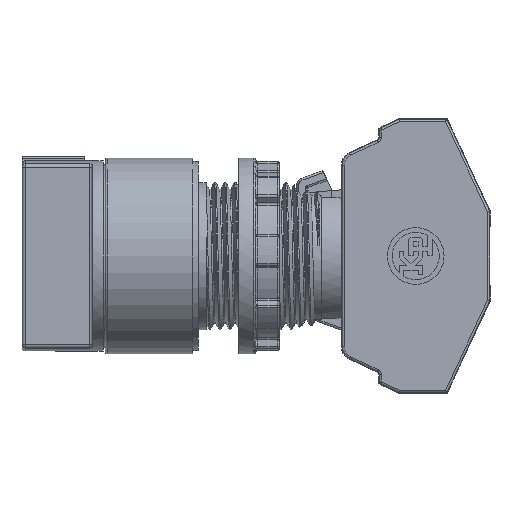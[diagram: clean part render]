
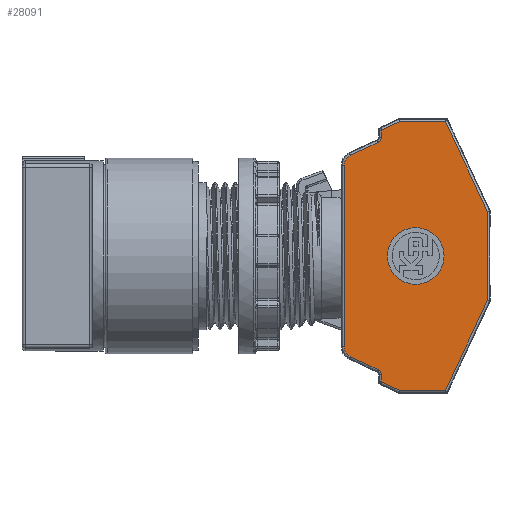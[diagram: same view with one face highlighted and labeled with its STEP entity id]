
A CAD part, front view. The second image highlights one B-rep face of the part: STEP entity #28091.
In plain terms, the highlighted planar face has unit normal (0, -1, 0) as drawn and (0, 0, 1) by its records, which use the part's own axes.
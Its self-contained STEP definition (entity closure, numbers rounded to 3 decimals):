
#23150=CARTESIAN_POINT('',(37.2,0.,14.8));
#23151=VERTEX_POINT('',#23150);
#23152=CARTESIAN_POINT('',(33.0,0.,14.8));
#23153=DIRECTION('',(0.0,0.0,-1.0));
#23154=DIRECTION('',(-1.0,0.0,0.0));
#23155=AXIS2_PLACEMENT_3D('',#23152,#23153,#23154);
#23156=CIRCLE('',#23155,4.2);
#23157=EDGE_CURVE('',#23151,#23151,#23156,.T.);
#27276=CARTESIAN_POINT('',(27.9,18.519,14.8));
#27277=VERTEX_POINT('',#27276);
#27285=CARTESIAN_POINT('',(28.015,18.7,14.8));
#27286=VERTEX_POINT('',#27285);
#27287=CARTESIAN_POINT('',(28.1,18.519,14.8));
#27288=DIRECTION('',(0.,0.,-1.0));
#27289=DIRECTION('',(-0.843,0.537,0.));
#27290=AXIS2_PLACEMENT_3D('',#27287,#27288,#27289);
#27291=CIRCLE('',#27290,0.2);
#27292=EDGE_CURVE('',#27277,#27286,#27291,.T.);
#27320=CARTESIAN_POINT('',(27.9,17.555,14.8));
#27321=VERTEX_POINT('',#27320);
#27329=CARTESIAN_POINT('',(27.9,17.555,14.8));
#27330=DIRECTION('',(0.0,1.0,0.0));
#27331=VECTOR('',#27330,0.964);
#27332=LINE('',#27329,#27331);
#27333=EDGE_CURVE('',#27321,#27277,#27332,.T.);
#27359=CARTESIAN_POINT('',(30.589,19.9,14.8));
#27360=VERTEX_POINT('',#27359);
#27361=CARTESIAN_POINT('',(28.015,18.7,14.8));
#27362=DIRECTION('',(0.906,0.423,0.));
#27363=VECTOR('',#27362,2.839);
#27364=LINE('',#27361,#27363);
#27365=EDGE_CURVE('',#27286,#27360,#27364,.T.);
#27384=CARTESIAN_POINT('',(27.438,16.83,14.8));
#27385=VERTEX_POINT('',#27384);
#27393=CARTESIAN_POINT('',(27.1,17.555,14.8));
#27394=DIRECTION('',(0.,0.,1.0));
#27395=DIRECTION('',(0.843,-0.537,0.));
#27396=AXIS2_PLACEMENT_3D('',#27393,#27394,#27395);
#27397=CIRCLE('',#27396,0.8);
#27398=EDGE_CURVE('',#27385,#27321,#27397,.T.);
#27416=CARTESIAN_POINT('',(37.403,19.9,14.8));
#27417=VERTEX_POINT('',#27416);
#27418=CARTESIAN_POINT('',(30.589,19.9,14.8));
#27419=DIRECTION('',(1.0,0.0,0.0));
#27420=VECTOR('',#27419,6.815);
#27421=LINE('',#27418,#27420);
#27422=EDGE_CURVE('',#27360,#27417,#27421,.T.);
#27450=CARTESIAN_POINT('',(23.324,14.911,14.8));
#27451=VERTEX_POINT('',#27450);
#27459=CARTESIAN_POINT('',(23.324,14.911,14.8));
#27460=DIRECTION('',(0.906,0.423,0.0));
#27461=VECTOR('',#27460,4.54);
#27462=LINE('',#27459,#27461);
#27463=EDGE_CURVE('',#27451,#27385,#27462,.T.);
#27480=CARTESIAN_POINT('',(43.6,6.611,14.8));
#27481=VERTEX_POINT('',#27480);
#27482=CARTESIAN_POINT('',(37.403,19.9,14.8));
#27483=DIRECTION('',(0.423,-0.906,0.));
#27484=VECTOR('',#27483,14.662);
#27485=LINE('',#27482,#27484);
#27486=EDGE_CURVE('',#27417,#27481,#27485,.T.);
#27512=CARTESIAN_POINT('',(22.4,13.461,14.8));
#27513=VERTEX_POINT('',#27512);
#27521=CARTESIAN_POINT('',(24.,13.461,14.8));
#27522=DIRECTION('',(0.,0.,-1.0));
#27523=DIRECTION('',(-0.843,0.537,0.));
#27524=AXIS2_PLACEMENT_3D('',#27521,#27522,#27523);
#27525=CIRCLE('',#27524,1.6);
#27526=EDGE_CURVE('',#27513,#27451,#27525,.T.);
#27544=CARTESIAN_POINT('',(43.6,-6.611,14.8));
#27545=VERTEX_POINT('',#27544);
#27546=CARTESIAN_POINT('',(43.6,6.611,14.8));
#27547=DIRECTION('',(0.0,-1.0,0.0));
#27548=VECTOR('',#27547,13.223);
#27549=LINE('',#27546,#27548);
#27550=EDGE_CURVE('',#27481,#27545,#27549,.T.);
#27576=CARTESIAN_POINT('',(22.4,-13.461,14.8));
#27577=VERTEX_POINT('',#27576);
#27585=CARTESIAN_POINT('',(22.4,-13.461,14.8));
#27586=DIRECTION('',(0.0,1.0,0.0));
#27587=VECTOR('',#27586,26.922);
#27588=LINE('',#27585,#27587);
#27589=EDGE_CURVE('',#27577,#27513,#27588,.T.);
#27601=CARTESIAN_POINT('',(37.403,-19.9,14.8));
#27602=VERTEX_POINT('',#27601);
#27603=CARTESIAN_POINT('',(43.6,-6.611,14.8));
#27604=DIRECTION('',(-0.423,-0.906,0.));
#27605=VECTOR('',#27604,14.662);
#27606=LINE('',#27603,#27605);
#27607=EDGE_CURVE('',#27545,#27602,#27606,.T.);
#27635=CARTESIAN_POINT('',(23.324,-14.911,14.8));
#27636=VERTEX_POINT('',#27635);
#27644=CARTESIAN_POINT('',(24.,-13.461,14.8));
#27645=DIRECTION('',(0.,0.,-1.0));
#27646=DIRECTION('',(-0.843,-0.537,0.));
#27647=AXIS2_PLACEMENT_3D('',#27644,#27645,#27646);
#27648=CIRCLE('',#27647,1.6);
#27649=EDGE_CURVE('',#27636,#27577,#27648,.T.);
#27667=CARTESIAN_POINT('',(30.589,-19.9,14.8));
#27668=VERTEX_POINT('',#27667);
#27669=CARTESIAN_POINT('',(37.403,-19.9,14.8));
#27670=DIRECTION('',(-1.0,0.0,0.0));
#27671=VECTOR('',#27670,6.815);
#27672=LINE('',#27669,#27671);
#27673=EDGE_CURVE('',#27602,#27668,#27672,.T.);
#27701=CARTESIAN_POINT('',(27.438,-16.83,14.8));
#27702=VERTEX_POINT('',#27701);
#27710=CARTESIAN_POINT('',(27.438,-16.83,14.8));
#27711=DIRECTION('',(-0.906,0.423,0.0));
#27712=VECTOR('',#27711,4.54);
#27713=LINE('',#27710,#27712);
#27714=EDGE_CURVE('',#27702,#27636,#27713,.T.);
#27731=CARTESIAN_POINT('',(28.015,-18.7,14.8));
#27732=VERTEX_POINT('',#27731);
#27749=CARTESIAN_POINT('',(30.589,-19.9,14.8));
#27750=DIRECTION('',(-0.906,0.423,0.0));
#27751=VECTOR('',#27750,2.839);
#27752=LINE('',#27749,#27751);
#27753=EDGE_CURVE('',#27668,#27732,#27752,.T.);
#27765=CARTESIAN_POINT('',(27.9,-17.555,14.8));
#27766=VERTEX_POINT('',#27765);
#27774=CARTESIAN_POINT('',(27.1,-17.555,14.8));
#27775=DIRECTION('',(0.,0.,1.0));
#27776=DIRECTION('',(0.843,0.537,0.));
#27777=AXIS2_PLACEMENT_3D('',#27774,#27775,#27776);
#27778=CIRCLE('',#27777,0.8);
#27779=EDGE_CURVE('',#27766,#27702,#27778,.T.);
#27815=CARTESIAN_POINT('',(27.9,-18.519,14.8));
#27816=VERTEX_POINT('',#27815);
#27834=CARTESIAN_POINT('',(28.1,-18.519,14.8));
#27835=DIRECTION('',(0.,0.,-1.0));
#27836=DIRECTION('',(-0.843,-0.537,0.));
#27837=AXIS2_PLACEMENT_3D('',#27834,#27835,#27836);
#27838=CIRCLE('',#27837,0.2);
#27839=EDGE_CURVE('',#27732,#27816,#27838,.T.);
#27857=CARTESIAN_POINT('',(27.9,-18.519,14.8));
#27858=DIRECTION('',(0.0,1.0,0.0));
#27859=VECTOR('',#27858,0.964);
#27860=LINE('',#27857,#27859);
#27861=EDGE_CURVE('',#27816,#27766,#27860,.T.);
#28063=CARTESIAN_POINT('',(32.411,0.,14.8));
#28064=DIRECTION('',(0.0,0.0,1.0));
#28065=DIRECTION('',(1.0,0.0,0.0));
#28066=AXIS2_PLACEMENT_3D('',#28063,#28064,#28065);
#28067=PLANE('',#28066);
#28068=ORIENTED_EDGE('',*,*,#27292,.F.);
#28069=ORIENTED_EDGE('',*,*,#27333,.F.);
#28070=ORIENTED_EDGE('',*,*,#27398,.F.);
#28071=ORIENTED_EDGE('',*,*,#27463,.F.);
#28072=ORIENTED_EDGE('',*,*,#27526,.F.);
#28073=ORIENTED_EDGE('',*,*,#27589,.F.);
#28074=ORIENTED_EDGE('',*,*,#27649,.F.);
#28075=ORIENTED_EDGE('',*,*,#27714,.F.);
#28076=ORIENTED_EDGE('',*,*,#27779,.F.);
#28077=ORIENTED_EDGE('',*,*,#27861,.F.);
#28078=ORIENTED_EDGE('',*,*,#27839,.F.);
#28079=ORIENTED_EDGE('',*,*,#27753,.F.);
#28080=ORIENTED_EDGE('',*,*,#27673,.F.);
#28081=ORIENTED_EDGE('',*,*,#27607,.F.);
#28082=ORIENTED_EDGE('',*,*,#27550,.F.);
#28083=ORIENTED_EDGE('',*,*,#27486,.F.);
#28084=ORIENTED_EDGE('',*,*,#27422,.F.);
#28085=ORIENTED_EDGE('',*,*,#27365,.F.);
#28086=EDGE_LOOP('',(#28068,#28069,#28070,#28071,#28072,#28073,#28074,#28075,#28076,#28077,#28078,#28079,#28080,#28081,#28082,#28083,#28084,#28085));
#28087=FACE_OUTER_BOUND('',#28086,.T.);
#28088=ORIENTED_EDGE('',*,*,#23157,.T.);
#28089=EDGE_LOOP('',(#28088));
#28090=FACE_BOUND('',#28089,.T.);
#28091=ADVANCED_FACE('',(#28087,#28090),#28067,.T.);
